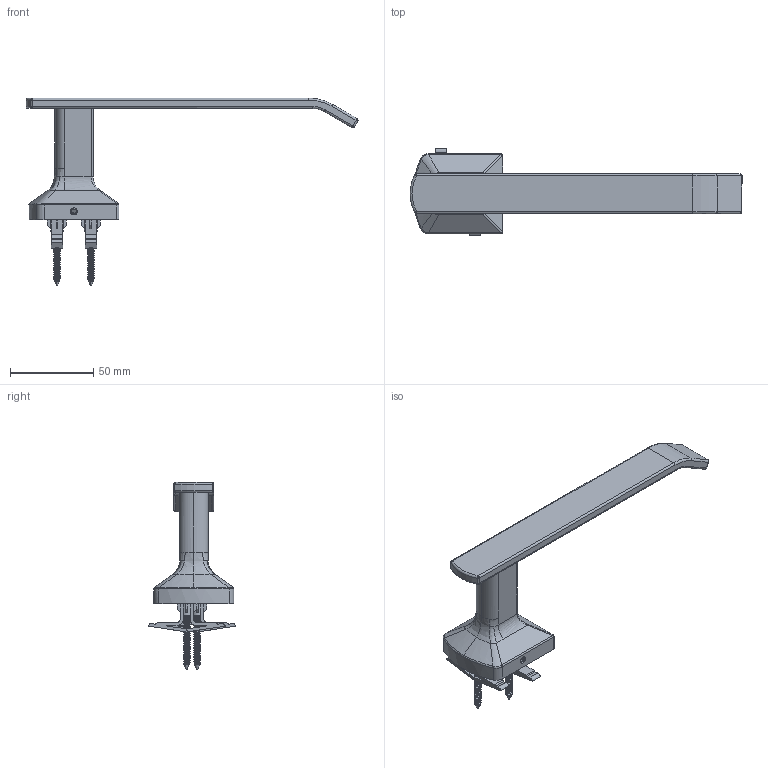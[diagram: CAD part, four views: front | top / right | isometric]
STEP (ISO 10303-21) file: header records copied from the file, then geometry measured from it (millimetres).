
FILE_DESCRIPTION (( 'STEP AP214' ), '1' );
FILE_NAME ('493TP.STEP', '2025-01-02T08:00:29', ( '' ), ( '' ), 'SwSTEP 2.0', 'SolidWorks 2023', '' );
FILE_SCHEMA (( 'AUTOMOTIVE_DESIGN' ));
Length unit declared in the file: inch
Products named in the file (1): 493TP
Bounding box: 199.37 x 52.58 x 112.7 mm (x, y, z)
Surface area: 31068 mm2 (no closed solid volume)
Topology: 0 solids, 9 shells, 426 faces, 1239 edges, 802 vertices
Faces by surface type: cylinder 148, plane 137, bspline 92, sphere 24, cone 19, torus 6
Entity records: 27178 total; most frequent: CARTESIAN_POINT 17285, ORIENTED_EDGE 2257, DIRECTION 1569, EDGE_CURVE 1239, VERTEX_POINT 802, LINE 539, VECTOR 539, B_SPLINE_CURVE_WITH_KNOTS 517
